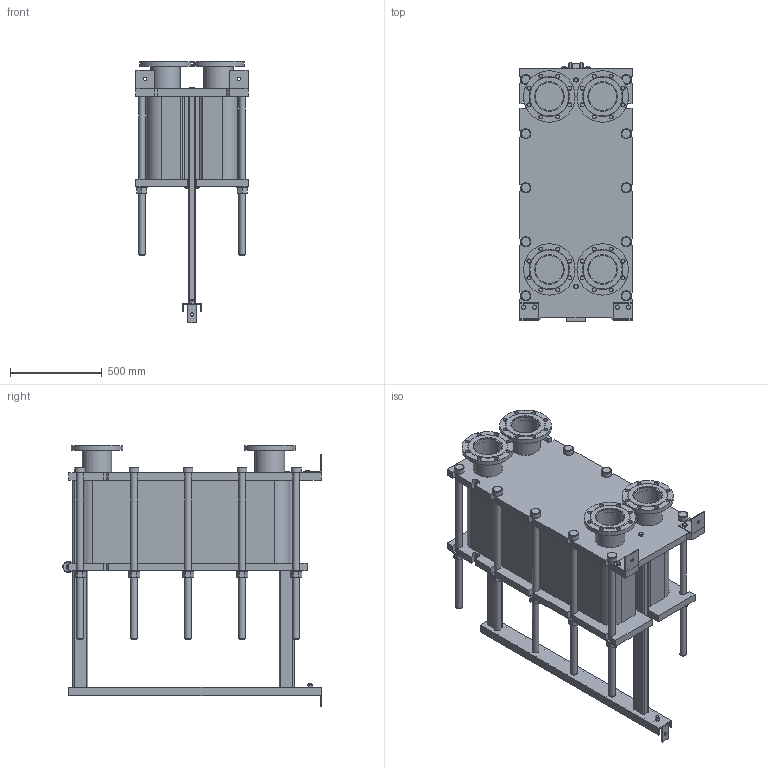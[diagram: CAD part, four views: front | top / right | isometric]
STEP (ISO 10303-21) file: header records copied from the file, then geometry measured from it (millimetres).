
FILE_DESCRIPTION(/* description */ (''),/* implementation_level */ '2;1');
FILE_NAME(/* name */ 'C:\Users\zhuro\Desktop\ENCO\TO\ЭН-041\ЭН-0,5-041-131-1.stp',/* time_stamp */ '2022-06-06T11:00:19+03:00',/* author */ ('zhuro'),/* organization */ (''),/* preprocessor_version */ 'ST-DEVELOPER v18.1',/* originating_system */ 'Autodesk Inventor 2022',/* authorisation */ '');
FILE_SCHEMA (('AUTOMOTIVE_DESIGN { 1 0 10303 214 3 1 1 }'));
Length unit declared in the file: millimetre
Products named in the file (1): ЭН-0,5-041-131-1
Bounding box: 610 x 1406.5 x 1422.5 mm (x, y, z)
Volume: 336845129.4 mm3; surface area: 9708035.7 mm2
Topology: 52 solids, 52 shells, 711 faces, 1696 edges, 1094 vertices
Faces by surface type: plane 487, cylinder 177, cone 41, torus 6
Full cylindrical faces by diameter (mm): 8 x4, 10 x2, 16 x8, 18 x3, 22 x32, 36 x24, 50 x1, 54 x10, 60 x12, 151 x4, 161 x8, 280 x4
Entity records: 22667 total; most frequent: CARTESIAN_POINT 5230, DIRECTION 3644, ORIENTED_EDGE 3392, EDGE_CURVE 1696, AXIS2_PLACEMENT_3D 1272, LINE 1100, VECTOR 1100, VERTEX_POINT 1094
